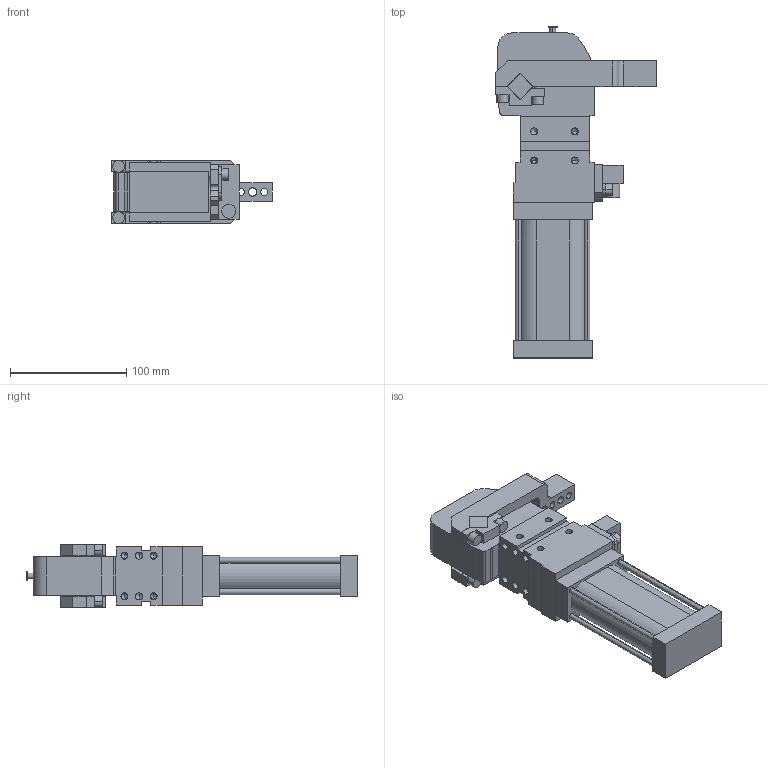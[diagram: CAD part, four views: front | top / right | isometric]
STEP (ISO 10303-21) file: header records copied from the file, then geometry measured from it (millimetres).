
FILE_DESCRIPTION (( 'STEP AP214' ), '1' );
FILE_NAME ('cpl40v2csi1g_19.STEP', '2021-05-25T10:39:45', ( '' ), ( '' ), 'SwSTEP 2.0', 'SolidWorks 2021', '' );
FILE_SCHEMA (( 'AUTOMOTIVE_DESIGN' ));
Length unit declared in the file: millimetre
Products named in the file (5): meccanica_cpl40; blocchetto_VEP_0_cpl40; cpl40v2csi1g_19; piastra_blocchetto_cpl40; leva_v2c_cpl40
Assembly tree (4 placements, depth 2):
  cpl40v2csi1g_19
    meccanica_cpl40
    leva_v2c_cpl40
    blocchetto_VEP_0_cpl40
    piastra_blocchetto_cpl40
Bounding box: 138 x 285 x 54 mm (x, y, z)
Volume: 763965.7 mm3; surface area: 115813 mm2
Topology: 5 solids, 5 shells, 404 faces, 1028 edges, 641 vertices
Faces by surface type: plane 214, cylinder 142, cone 48
Entity records: 13443 total; most frequent: DIRECTION 2118, CARTESIAN_POINT 2034, ORIENTED_EDGE 1964, EDGE_CURVE 982, AXIS2_PLACEMENT_3D 725, VECTOR 668, LINE 668, VERTEX_POINT 641
